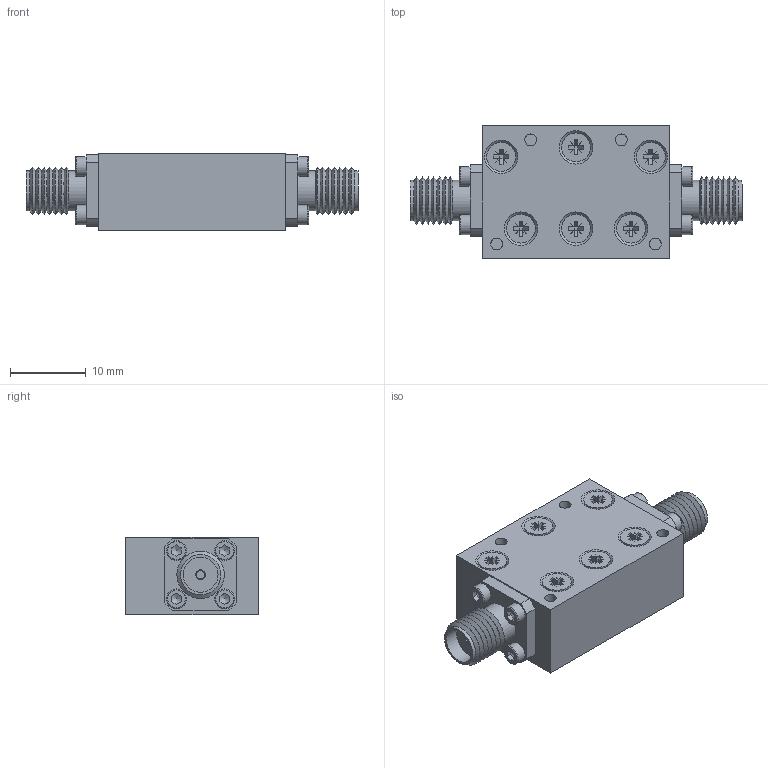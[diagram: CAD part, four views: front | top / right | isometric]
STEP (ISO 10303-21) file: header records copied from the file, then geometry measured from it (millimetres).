
FILE_DESCRIPTION(/* description */ ('Unknown'),/* implementation_level */ '2;1');
FILE_NAME(/* name */ 'DETI_MICROWAVE_HIGHPASS_FILTER_800075_STEP',/* time_stamp */ '2021-06-01T15:45:18+02:00',/* author */ ('ALG'),/* organization */ ('DETI'),/* preprocessor_version */ 'ST-DEVELOPER v16.7',/* originating_system */ 'Solid Edge',/* authorisation */ 'Unknown');
FILE_SCHEMA (('AUTOMOTIVE_DESIGN {1 0 10303 214 3 1 1}'));
Length unit declared in the file: millimetre
Products named in the file (1): 800075 0A 1601A2
Bounding box: 43.7 x 17.5 x 10.2 mm (x, y, z)
Volume: 4732.2 mm3; surface area: 3876.3 mm2
Topology: 1 solids, 24 shells, 508 faces, 1274 edges, 836 vertices
Faces by surface type: plane 350, cylinder 90, cone 54, torus 14
Full cylindrical faces by diameter (mm): 1.075 x8, 1.1 x2, 1.27 x4, 1.4 x8, 1.567 x10, 1.8 x8, 2 x6, 2.2 x6, 2.6 x8, 3.8 x6, 4.1 x2, 4.6 x2, 5.3 x4
Entity records: 17366 total; most frequent: CARTESIAN_POINT 2505, DIRECTION 2266, ORIENTED_EDGE 2112, EDGE_CURVE 1056, VERTEX_POINT 772, LINE 760, VECTOR 760, AXIS2_PLACEMENT_3D 753
